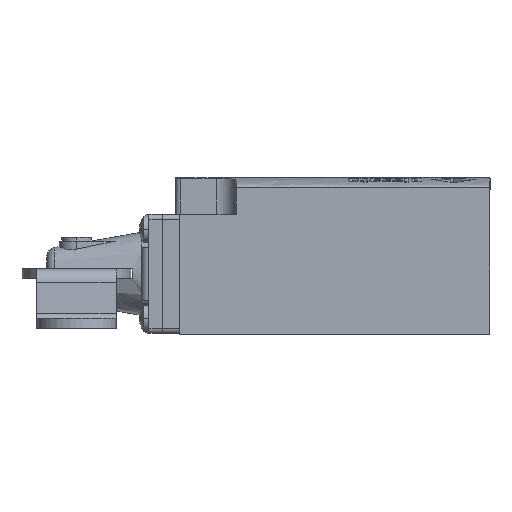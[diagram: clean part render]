
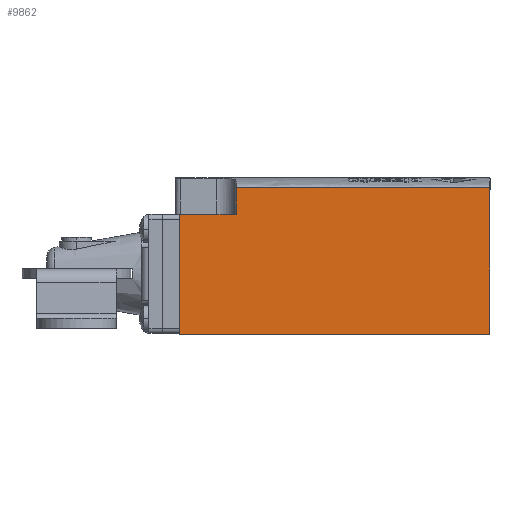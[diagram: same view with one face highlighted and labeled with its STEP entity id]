
A CAD part, left-side view. The second image highlights one B-rep face of the part: STEP entity #9862.
In plain terms, the highlighted planar face has unit normal (-1, 0, 0).
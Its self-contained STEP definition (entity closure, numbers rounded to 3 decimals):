
#73 = DIRECTION ( 'NONE',  ( 0., 0., 1. ) ) ;
#126 = CARTESIAN_POINT ( 'NONE',  ( -15.6, 18.2, 12. ) ) ;
#146 = CARTESIAN_POINT ( 'NONE',  ( -15.6, 18.2, 17.4 ) ) ;
#238 = VERTEX_POINT ( 'NONE', #5529 ) ;
#291 = EDGE_CURVE ( 'NONE', #8703, #4934, #7199, .T. ) ;
#808 = CARTESIAN_POINT ( 'NONE',  ( -15.6, -33., -12.2 ) ) ;
#819 = LINE ( 'NONE', #2527, #1079 ) ;
#1039 = ORIENTED_EDGE ( 'NONE', *, *, #291, .F. ) ;
#1079 = VECTOR ( 'NONE', #7256, 1000. ) ;
#1295 = CARTESIAN_POINT ( 'NONE',  ( -15.6, -33., 17.4 ) ) ;
#1311 = CARTESIAN_POINT ( 'NONE',  ( -15.6, -15.933, 17.4 ) ) ;
#2155 = LINE ( 'NONE', #8642, #4113 ) ;
#2527 = CARTESIAN_POINT ( 'NONE',  ( -15.6, 29.55, 19.4 ) ) ;
#2885 = VERTEX_POINT ( 'NONE', #10265 ) ;
#2988 = DIRECTION ( 'NONE',  ( 1., 0., 0. ) ) ;
#3590 = ORIENTED_EDGE ( 'NONE', *, *, #6631, .T. ) ;
#4113 = VECTOR ( 'NONE', #7809, 1000. ) ;
#4224 = EDGE_CURVE ( 'NONE', #8168, #238, #9742, .T. ) ;
#4399 = CARTESIAN_POINT ( 'NONE',  ( -15.6, -33., 19.4 ) ) ;
#4406 = EDGE_CURVE ( 'NONE', #2885, #8703, #2155, .T. ) ;
#4505 = VECTOR ( 'NONE', #73, 1000. ) ;
#4577 = CARTESIAN_POINT ( 'NONE',  ( -15.6, 1.133, 17.4 ) ) ;
#4656 = DIRECTION ( 'NONE',  ( 0., 1., 0. ) ) ;
#4934 = VERTEX_POINT ( 'NONE', #146 ) ;
#5090 = ORIENTED_EDGE ( 'NONE', *, *, #4406, .F. ) ;
#5129 = AXIS2_PLACEMENT_3D ( 'NONE', #5524, #2988, #4656 ) ;
#5524 = CARTESIAN_POINT ( 'NONE',  ( -15.6, -33., 19.4 ) ) ;
#5529 = CARTESIAN_POINT ( 'NONE',  ( -15.6, -33., -12.2 ) ) ;
#5950 = VECTOR ( 'NONE', #10252, 1000. ) ;
#5976 = CARTESIAN_POINT ( 'NONE',  ( -15.6, 18.2, 17.4 ) ) ;
#6114 = CARTESIAN_POINT ( 'NONE',  ( -15.6, 29.55, -12.2 ) ) ;
#6317 = FACE_OUTER_BOUND ( 'NONE', #7087, .T. ) ;
#6590 = ORIENTED_EDGE ( 'NONE', *, *, #9938, .T. ) ;
#6631 = EDGE_CURVE ( 'NONE', #2885, #9433, #819, .T. ) ;
#6801 = ORIENTED_EDGE ( 'NONE', *, *, #8922, .T. ) ;
#7087 = EDGE_LOOP ( 'NONE', ( #9242, #6801, #1039, #5090, #3590, #6590 ) ) ;
#7095 = LINE ( 'NONE', #808, #5950 ) ;
#7199 = LINE ( 'NONE', #126, #4505 ) ;
#7256 = DIRECTION ( 'NONE',  ( 0., 0., -1. ) ) ;
#7566 = DIRECTION ( 'NONE',  ( 0., 0., -1. ) ) ;
#7809 = DIRECTION ( 'NONE',  ( 0., -1., 0. ) ) ;
#7947 = CARTESIAN_POINT ( 'NONE',  ( -15.6, 18.2, 12. ) ) ;
#8168 = VERTEX_POINT ( 'NONE', #1295 ) ;
#8412 = CARTESIAN_POINT ( 'NONE',  ( -15.6, -33., 17.4 ) ) ;
#8593 = PLANE ( 'NONE',  #5129 ) ;
#8642 = CARTESIAN_POINT ( 'NONE',  ( -15.6, 29.55, 12. ) ) ;
#8703 = VERTEX_POINT ( 'NONE', #7947 ) ;
#8712 = B_SPLINE_CURVE_WITH_KNOTS ( 'NONE', 3,
 ( #8412, #1311, #4577, #5976 ),
 .UNSPECIFIED., .F., .F.,
 ( 4, 4 ),
 ( 0., 1. ),
 .UNSPECIFIED. ) ;
#8922 = EDGE_CURVE ( 'NONE', #8168, #4934, #8712, .T. ) ;
#9242 = ORIENTED_EDGE ( 'NONE', *, *, #4224, .F. ) ;
#9403 = VECTOR ( 'NONE', #7566, 1000. ) ;
#9433 = VERTEX_POINT ( 'NONE', #6114 ) ;
#9742 = LINE ( 'NONE', #4399, #9403 ) ;
#9862 = ADVANCED_FACE ( 'NONE', ( #6317 ), #8593, .F. ) ;
#9938 = EDGE_CURVE ( 'NONE', #9433, #238, #7095, .T. ) ;
#10252 = DIRECTION ( 'NONE',  ( 0., -1., 0. ) ) ;
#10265 = CARTESIAN_POINT ( 'NONE',  ( -15.6, 29.55, 12. ) ) ;
